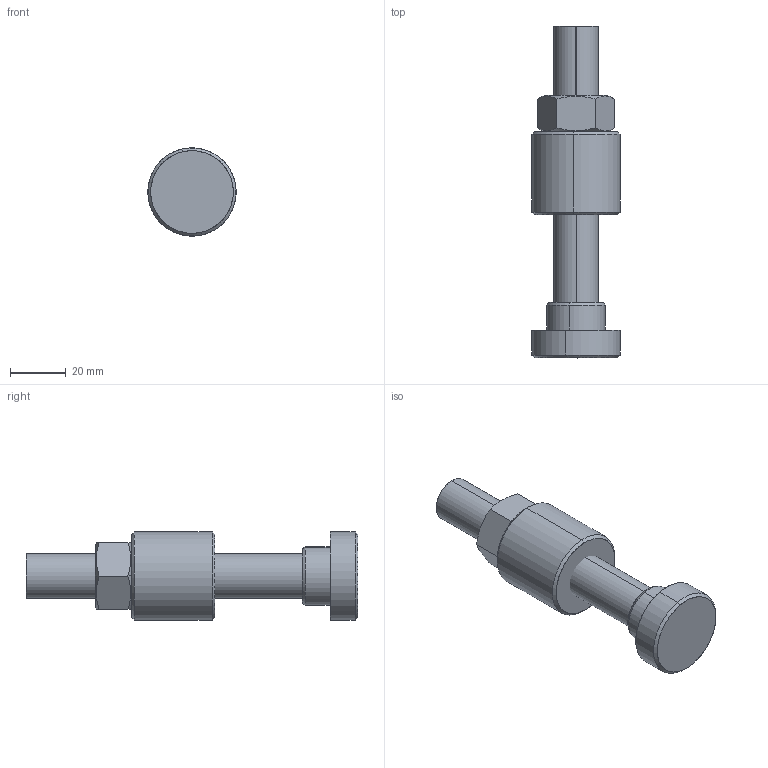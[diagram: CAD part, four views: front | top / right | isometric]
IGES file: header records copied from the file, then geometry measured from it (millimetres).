
Start section: SolidWorks IGES file using analytic representation for surfaces
Global section: file name: C:\Projetos\Ponteiras\ARB\ARB-M16.IGS; native system: SolidWorks 2012; preprocessor: SolidWorks 2012; author: Ricardo; date: 140305.143243; units: millimetre
Bounding box: 31.73 x 119.5 x 31.73 mm (x, y, z)
Surface area: 17582.9 mm2 (no closed solid volume)
Topology: 0 solids, 0 shells, 54 faces, 1032 edges, 1030 vertices
Faces by surface type: revolution 38, bspline 16
